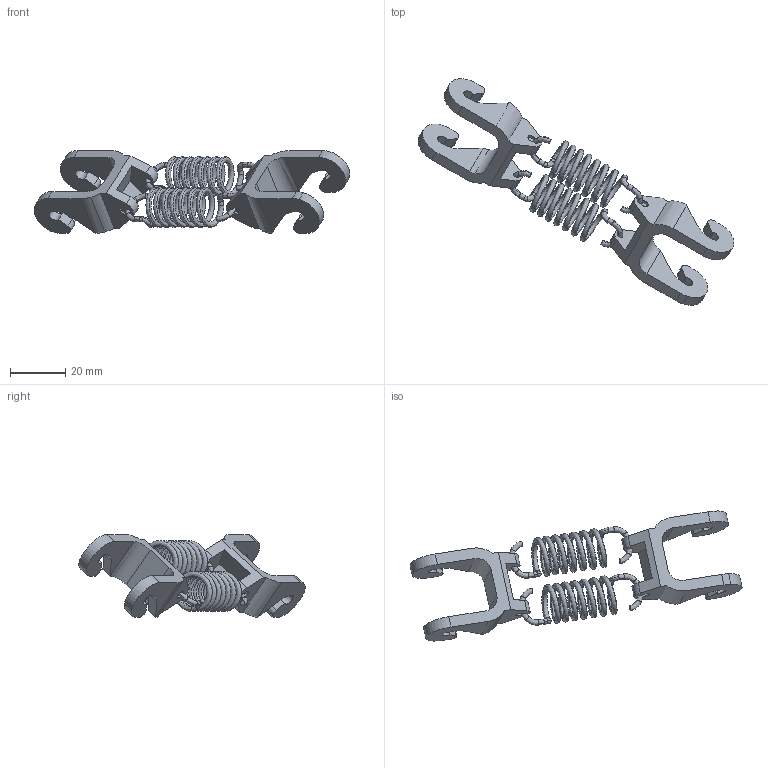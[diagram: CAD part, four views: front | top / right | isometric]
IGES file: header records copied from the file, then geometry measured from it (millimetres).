
Start section: SolidWorks IGES file using analytic representation for surfaces
Global section: file name: C:\Users\SELUHAA\OneDrive - ABB\Work items\609433\IRB360_8-1130-STD-4D_rev03\IRB360_8-1130-STD-4D_rev03_IGS_J\IRB360_8-1130-STD-4D_rev03_LA2_CL_CAD.igs; native system: SolidWorks 2022; preprocessor: SolidWorks 2022; author: SELUHAA; date: 250115.102606; units: millimetre
Bounding box: 114.05 x 81.76 x 29.88 mm (x, y, z)
Volume: 11802.8 mm3; surface area: 10699.5 mm2
Topology: 1 solids, 1 shells, 170 faces, 458 edges, 296 vertices
Faces by surface type: revolution 60, bspline 56, plane 54
